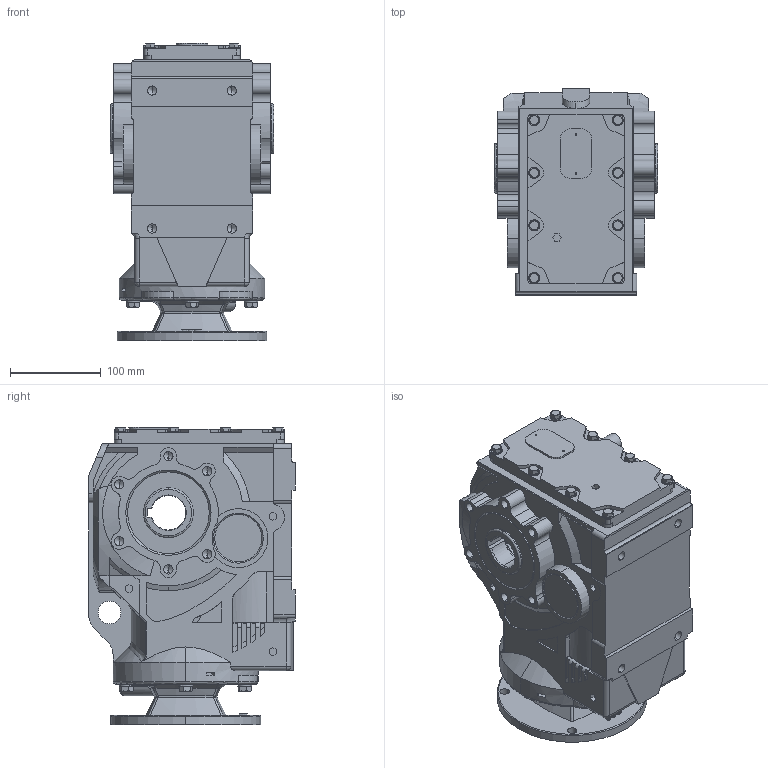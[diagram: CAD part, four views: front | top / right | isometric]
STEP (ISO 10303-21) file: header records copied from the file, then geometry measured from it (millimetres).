
FILE_DESCRIPTION (( 'STEP AP203' ), '1' );
FILE_NAME ('KAN67-56C.STEP', '2022-04-09T01:24:36', ( 'user1' ), ( '' ), 'SwSTEP 2.0', 'SolidWorks 2012', '' );
FILE_SCHEMA (( 'CONFIG_CONTROL_DESIGN' ));
Length unit declared in the file: millimetre
Products named in the file (1): KAN67-56C
Bounding box: 180 x 228 x 327.5 mm (x, y, z)
Volume: 7768493.4 mm3; surface area: 388120 mm2
Topology: 1 solids, 1 shells, 1227 faces, 3264 edges, 2093 vertices
Faces by surface type: plane 566, cylinder 386, bspline 143, cone 110, torus 20, sphere 2
Entity records: 46513 total; most frequent: CARTESIAN_POINT 16890, ORIENTED_EDGE 6456, DIRECTION 5718, EDGE_CURVE 3228, VERTEX_POINT 2093, AXIS2_PLACEMENT_3D 1983, LINE 1752, VECTOR 1752
